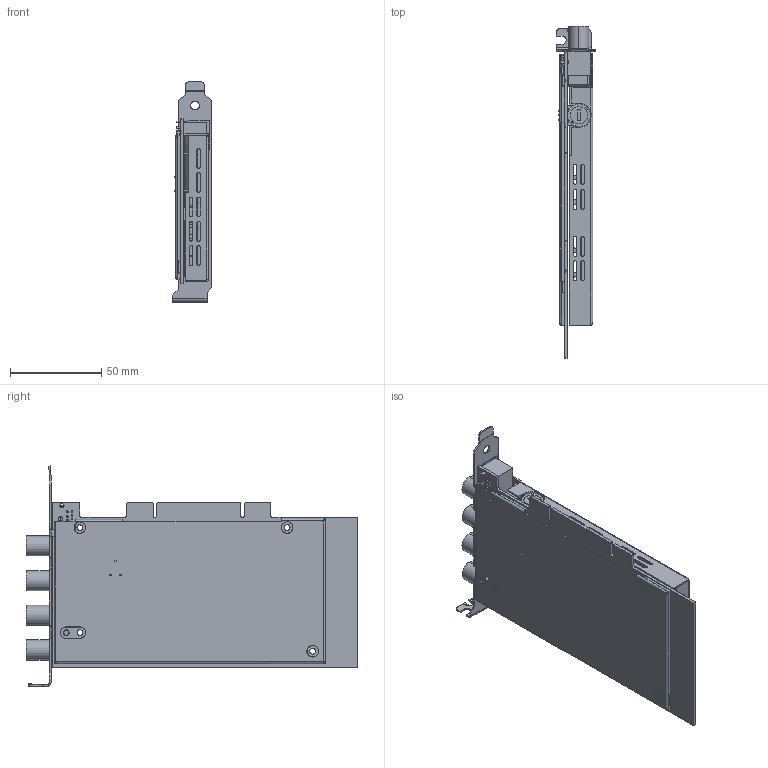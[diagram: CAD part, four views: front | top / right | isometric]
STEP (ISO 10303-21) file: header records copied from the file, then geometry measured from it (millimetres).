
FILE_DESCRIPTION((''),'2;1');
FILE_NAME('CU_PCI-4065','2009-12-15T',('jjorden'),(''),'PRO/ENGINEER BY PARAMETRIC TECHNOLOGY CORPORATION, 2006080','PRO/ENGINEER BY PARAMETRIC TECHNOLOGY CORPORATION, 2006080','');
FILE_SCHEMA(('CONFIG_CONTROL_DESIGN'));
Length unit declared in the file: inch
Products named in the file (1): CU_PCI-4065
Bounding box: 21.59 x 182.2 x 120.91 mm (x, y, z)
Volume: 76635.6 mm3; surface area: 124875.4 mm2
Topology: 20 solids, 20 shells, 1425 faces, 3677 edges, 2310 vertices
Faces by surface type: plane 805, cylinder 445, extrusion 72, torus 38, bspline 29, cone 20, sphere 16
Entity records: 47031 total; most frequent: CARTESIAN_POINT 11608, ORIENTED_EDGE 7338, DIRECTION 7206, EDGE_CURVE 3669, VECTOR 2424, AXIS2_PLACEMENT_3D 2391, LINE 2352, VERTEX_POINT 2348
